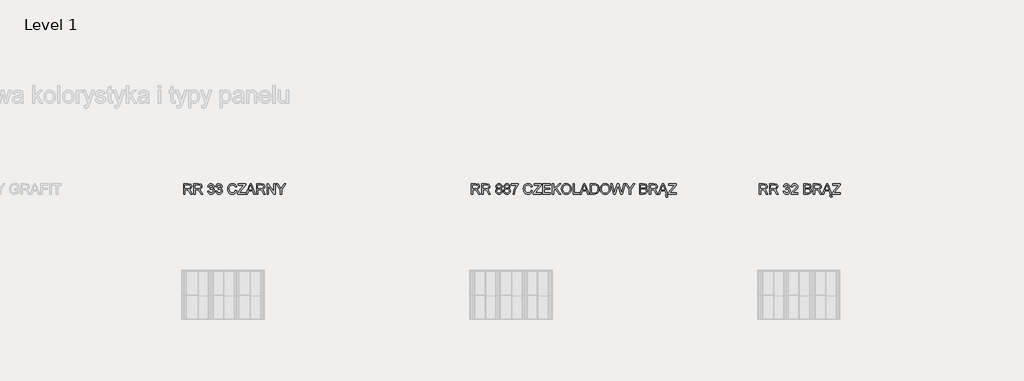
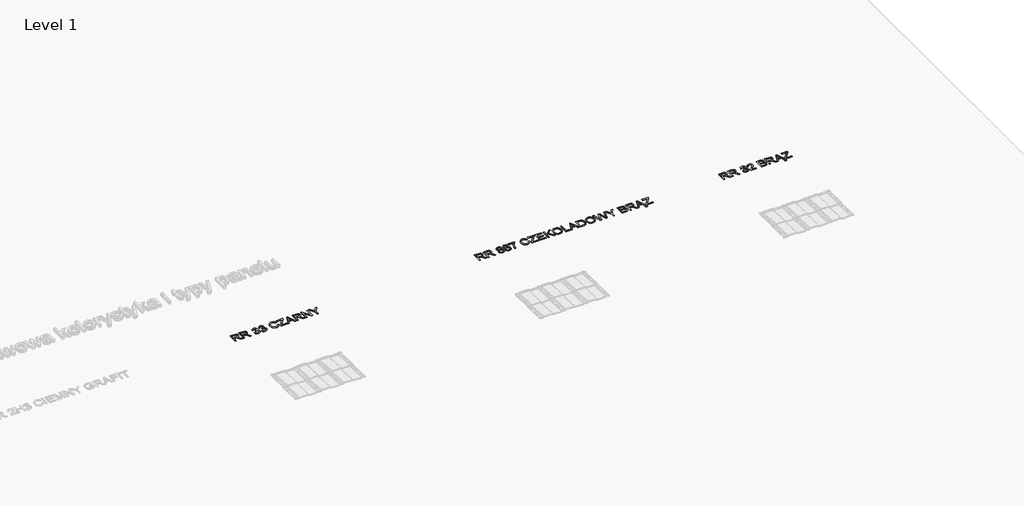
# One storey, part 9 of 10: 3 proxies.
"""IFC4 building model written with IfcOpenShell, lengths in millimetres."""

from ifc_helpers import new_model, si_unit, frame, origin, place, context, project, spatial, polyline, outline, extrude, element, save

model = new_model("IFC4")

# Units and contexts
model_context = context("Model", 3, world=origin())
ifc_project = project(units=[si_unit("LENGTHUNIT", "METRE", prefix="MILLI")], contexts=[model_context])

# Site, building, storey
site = spatial("IfcSite", under=ifc_project)
building = spatial("IfcBuilding", under=site)
storey = spatial("IfcBuildingStorey", under=building, Name="Level 1", Elevation=0.0)

# Proxies
placement = place(None, origin())
element("IfcBuildingElementProxy", 1, Name="150 Blue", ObjectType="150 Blue", at=placement, inside=storey, context=model_context, shape_type="SweptSolid", body=[
    extrude(outline(polyline([(-4536.4118342, 1464.3485888), (-4536.4118342, 1615.033054), (-4471.4806621, 1615.033054), (-4441.3327325, 1610.967958), (-4432.0529092, 1605.3393635), (-4424.8516192, 1596.583772), (-4420.2301016, 1585.7266546), (-4418.6895957, 1573.7934824), (-4421.2417771, 1558.9494439), (-4428.8983211, 1546.6437911), (-4441.8891541, 1537.6214852), (-4460.4442022, 1532.6274871), (-4449.7388361, 1524.5708714), (-4434.4717333, 1505.1834903), (-4409.3453931, 1464.3485888), (-4431.2343718, 1464.3485888), (-4450.8424821, 1495.5817702), (-4465.0059389, 1516.2567383), (-4474.9571469, 1526.0240053), (-4483.9150735, 1529.6108548), (-4494.8411687, 1530.2730423), (-4517.576276, 1530.2730423), (-4517.576276, 1464.3485888), (-4536.4118342, 1464.3485888)]), holes=[polyline([(-4517.576276, 1549.1086005), (-4475.4169994, 1549.1086005), (-4453.9142968, 1551.775745), (-4441.7006145, 1560.3106073), (-4437.5251539, 1573.0945066), (-4439.5163152, 1582.2823594), (-4445.4897991, 1589.6859846), (-4455.7675023, 1594.5696181), (-4470.6713217, 1596.1974959), (-4517.576276, 1596.1974959), (-4517.576276, 1549.1086005)])]), frame((0.0, 0.0, 600.0), z_axis=(0.0, 0.0, 1.0), x_axis=(1.0, 0.0, 0.0)), (0.0, 0.0, 1.0), 10.0),
    extrude(outline(polyline([(-4385.727369, 1464.3485888), (-4385.727369, 1615.033054), (-4320.7961968, 1615.033054), (-4290.6482673, 1610.967958), (-4281.368444, 1605.3393635), (-4274.1671539, 1596.583772), (-4269.5456364, 1585.7266546), (-4268.0051305, 1573.7934824), (-4270.5573119, 1558.9494439), (-4278.2138559, 1546.6437911), (-4291.2046888, 1537.6214852), (-4309.759737, 1532.6274871), (-4299.0543709, 1524.5708714), (-4283.7872681, 1505.1834903), (-4258.6609278, 1464.3485888), (-4280.5499066, 1464.3485888), (-4300.1580169, 1495.5817702), (-4314.3214737, 1516.2567383), (-4324.2726817, 1526.0240053), (-4333.2306083, 1529.6108548), (-4344.1567035, 1530.2730423), (-4366.8918108, 1530.2730423), (-4366.8918108, 1464.3485888), (-4385.727369, 1464.3485888)]), holes=[polyline([(-4366.8918108, 1549.1086005), (-4324.7325342, 1549.1086005), (-4303.2298316, 1551.775745), (-4291.0161493, 1560.3106073), (-4286.8406887, 1573.0945066), (-4288.83185, 1582.2823594), (-4294.8053339, 1589.6859846), (-4305.0830371, 1594.5696181), (-4319.9868564, 1596.1974959), (-4366.8918108, 1596.1974959), (-4366.8918108, 1549.1086005)])]), frame((0.0, 0.0, 600.0), z_axis=(0.0, 0.0, 1.0), x_axis=(1.0, 0.0, 0.0)), (0.0, 0.0, 1.0), 10.0),
    extrude(outline(polyline([(-4183.2451188, 1504.3741499), (-4164.4095607, 1506.7285947), (-4160.1927133, 1494.8919915), (-4154.0168943, 1486.8997551), (-4145.5786011, 1482.3472154), (-4134.5743309, 1480.8297022), (-4121.6616728, 1482.9174325), (-4111.6920708, 1489.1806235), (-4105.3185152, 1498.5248262), (-4103.1939967, 1509.8555916), (-4105.3001211, 1520.6115414), (-4111.6184944, 1529.3349433), (-4121.1834262, 1535.1152891), (-4133.0292265, 1537.0420711), (-4146.2361901, 1534.9819319), (-4144.1392627, 1553.81749), (-4141.1226304, 1553.5967608), (-4119.7486865, 1559.0046262), (-4112.6301699, 1565.8656254), (-4110.257331, 1575.6328924), (-4111.9771793, 1583.767683), (-4117.1367243, 1590.3665663), (-4125.009399, 1594.7397635), (-4134.8686365, 1596.1974959), (-4144.746268, 1594.7259679), (-4152.8212778, 1590.311384), (-4158.7165868, 1582.9537441), (-4162.0551159, 1572.6530482), (-4180.8906741, 1575.007493), (-4175.344853, 1591.9208677), (-4165.4764185, 1604.5484172), (-4151.9751492, 1612.4118948), (-4135.5308241, 1615.033054), (-4112.8141109, 1609.864312), (-4096.9216087, 1595.7376434), (-4091.4217728, 1576.7365383), (-4096.6456972, 1559.3725082), (-4112.096741, 1546.9013085), (-4100.306123, 1542.1372367), (-4091.5689256, 1534.0254387), (-4086.1610603, 1523.0073729), (-4084.3584385, 1509.5244978), (-4087.9636821, 1491.1671863), (-4098.7794127, 1475.8265071), (-4115.1041763, 1465.4522348), (-4135.2365185, 1461.994144), (-4153.4466772, 1464.9463971), (-4168.2723216, 1473.8031561), (-4178.5822145, 1487.3504106), (-4183.2451188, 1504.3741499)])), frame((0.0, 0.0, 600.0), z_axis=(0.0, 0.0, 1.0), x_axis=(1.0, 0.0, 0.0)), (0.0, 0.0, 1.0), 10.0),
    extrude(outline(polyline([(-4067.8773251, 1504.3741499), (-4049.041767, 1506.7285947), (-4044.8249196, 1494.8919915), (-4038.6491006, 1486.8997551), (-4030.2108074, 1482.3472154), (-4019.2065372, 1480.8297022), (-4006.2938792, 1482.9174325), (-3996.3242771, 1489.1806235), (-3989.9507215, 1498.5248262), (-3987.826203, 1509.8555916), (-3989.9323274, 1520.6115414), (-3996.2507007, 1529.3349433), (-4005.8156326, 1535.1152891), (-4017.6614328, 1537.0420711), (-4030.8683964, 1534.9819319), (-4028.7714691, 1553.81749), (-4025.7548367, 1553.5967608), (-4004.3808928, 1559.0046262), (-3997.2623762, 1565.8656254), (-3994.8895373, 1575.6328924), (-3996.6093856, 1583.767683), (-4001.7689306, 1590.3665663), (-4009.6416053, 1594.7397635), (-4019.5008428, 1596.1974959), (-4029.3784744, 1594.7259679), (-4037.4534841, 1590.311384), (-4043.3487931, 1582.9537441), (-4046.6873222, 1572.6530482), (-4065.5228804, 1575.007493), (-4059.9770593, 1591.9208677), (-4050.1086248, 1604.5484172), (-4036.6073556, 1612.4118948), (-4020.1630304, 1615.033054), (-3997.4463172, 1609.864312), (-3981.553815, 1595.7376434), (-3976.0539791, 1576.7365383), (-3981.2779035, 1559.3725082), (-3996.7289473, 1546.9013085), (-3984.9383293, 1542.1372367), (-3976.2011319, 1534.0254387), (-3970.7932666, 1523.0073729), (-3968.9906448, 1509.5244978), (-3972.5958884, 1491.1671863), (-3983.4116191, 1475.8265071), (-3999.7363826, 1465.4522348), (-4019.8687248, 1461.994144), (-4038.0788835, 1464.9463971), (-4052.9045279, 1473.8031561), (-4063.2144209, 1487.3504106), (-4067.8773251, 1504.3741499)])), frame((0.0, 0.0, 600.0), z_axis=(0.0, 0.0, 1.0), x_axis=(1.0, 0.0, 0.0)), (0.0, 0.0, 1.0), 10.0),
    extrude(outline(polyline([(-3780.6350633, 1517.9122073), (-3761.7995052, 1513.056165), (-3770.4907173, 1491.1074054), (-3784.1299423, 1475.072349), (-3802.0457954, 1465.2636953), (-3823.5668921, 1461.994144), (-3845.4144841, 1464.4681505), (-3862.7647187, 1471.8901697), (-3876.0636529, 1484.0026844), (-3885.7573434, 1500.5481771), (-3891.675645, 1519.9999376), (-3893.6484122, 1540.8312556), (-3891.4181276, 1562.8030078), (-3884.7272738, 1581.7765217), (-3873.9253388, 1597.1493905), (-3859.3618103, 1608.3192076), (-3842.0897506, 1615.120426), (-3823.162222, 1617.3874988), (-3802.5102464, 1614.4536399), (-3785.4359233, 1605.6520632), (-3772.4726815, 1591.5253945), (-3764.1539499, 1572.61626), (-3782.9895081, 1568.1280997), (-3789.5194135, 1581.8638936), (-3798.4405519, 1591.2862712), (-3809.8632878, 1596.7355233), (-3823.8979859, 1598.5519407), (-3840.0755967, 1596.5377867), (-3853.3653338, 1590.495325), (-3863.449899, 1581.0591518), (-3870.011994, 1568.8638636), (-3874.8128541, 1540.8680438), (-3873.3919099, 1523.4672254), (-3869.1290773, 1508.4208518), (-3861.8634078, 1496.3037386), (-3851.4339533, 1487.6907014), (-3838.930564, 1482.544952), (-3825.4430903, 1480.8297022), (-3809.7207336, 1483.1657529), (-3796.619536, 1490.1739049), (-3786.7281089, 1501.7805818), (-3780.6350633, 1517.9122073)])), frame((0.0, 0.0, 600.0), z_axis=(0.0, 0.0, 1.0), x_axis=(1.0, 0.0, 0.0)), (0.0, 0.0, 1.0), 10.0),
    extrude(outline(polyline([(-3747.6728365, 1464.3485888), (-3747.6728365, 1483.8831228), (-3670.6383468, 1578.2816427), (-3655.9966433, 1596.1974959), (-3738.2550575, 1596.1974959), (-3738.2550575, 1615.033054), (-3632.3050429, 1615.033054), (-3632.3050429, 1596.1974959), (-3716.6235962, 1492.8962316), (-3724.5698472, 1483.184147), (-3629.9505981, 1483.184147), (-3629.9505981, 1464.3485888), (-3747.6728365, 1464.3485888)])), frame((0.0, 0.0, 600.0), z_axis=(0.0, 0.0, 1.0), x_axis=(1.0, 0.0, 0.0)), (0.0, 0.0, 1.0), 10.0),
    extrude(outline(polyline([(-3626.2717781, 1464.3485888), (-3566.1230719, 1615.033054), (-3550.0834169, 1615.033054), (-3489.9714989, 1464.3485888), (-3509.8739149, 1464.3485888), (-3527.0907922, 1511.4374842), (-3589.189273, 1511.4374842), (-3606.4061504, 1464.3485888), (-3626.2717781, 1464.3485888)]), holes=[polyline([(-3582.2730915, 1530.2730423), (-3533.9701855, 1530.2730423), (-3547.5818194, 1567.3187593), (-3558.1400326, 1596.1974959), (-3567.5210235, 1570.5561208), (-3582.2730915, 1530.2730423)])]), frame((0.0, 0.0, 600.0), z_axis=(0.0, 0.0, 1.0), x_axis=(1.0, 0.0, 0.0)), (0.0, 0.0, 1.0), 10.0),
    extrude(outline(polyline([(-3469.8483538, 1464.3485888), (-3469.8483538, 1615.033054), (-3404.9171816, 1615.033054), (-3374.7692521, 1610.967958), (-3365.4894288, 1605.3393635), (-3358.2881387, 1596.583772), (-3353.6666212, 1585.7266546), (-3352.1261153, 1573.7934824), (-3354.6782967, 1558.9494439), (-3362.3348407, 1546.6437911), (-3375.3256737, 1537.6214852), (-3393.8807218, 1532.6274871), (-3383.1753557, 1524.5708714), (-3367.9082529, 1505.1834903), (-3342.7819127, 1464.3485888), (-3364.6708914, 1464.3485888), (-3384.2790017, 1495.5817702), (-3398.4424585, 1516.2567383), (-3408.3936665, 1526.0240053), (-3417.3515931, 1529.6108548), (-3428.2776883, 1530.2730423), (-3451.0127956, 1530.2730423), (-3451.0127956, 1464.3485888), (-3469.8483538, 1464.3485888)]), holes=[polyline([(-3451.0127956, 1549.1086005), (-3408.853519, 1549.1086005), (-3387.3508164, 1551.775745), (-3375.1371341, 1560.3106073), (-3370.9616735, 1573.0945066), (-3372.9528348, 1582.2823594), (-3378.9263187, 1589.6859846), (-3389.2040219, 1594.5696181), (-3404.1078412, 1596.1974959), (-3451.0127956, 1596.1974959), (-3451.0127956, 1549.1086005)])]), frame((0.0, 0.0, 600.0), z_axis=(0.0, 0.0, 1.0), x_axis=(1.0, 0.0, 0.0)), (0.0, 0.0, 1.0), 10.0),
    extrude(outline(polyline([(-3319.1638886, 1464.3485888), (-3319.1638886, 1615.033054), (-3299.0039552, 1615.033054), (-3220.2772083, 1495.6553466), (-3220.2772083, 1615.033054), (-3201.4416501, 1615.033054), (-3201.4416501, 1464.3485888), (-3221.6015834, 1464.3485888), (-3300.3283304, 1583.7630844), (-3300.3283304, 1464.3485888), (-3319.1638886, 1464.3485888)])), frame((0.0, 0.0, 600.0), z_axis=(0.0, 0.0, 1.0), x_axis=(1.0, 0.0, 0.0)), (0.0, 0.0, 1.0), 10.0),
    extrude(outline(polyline([(-3126.0994175, 1464.3485888), (-3126.0994175, 1528.176115), (-3184.9605367, 1615.033054), (-3162.7772524, 1615.033054), (-3131.36013, 1568.6431344), (-3115.2836868, 1544.951534), (-3099.1336672, 1570.3353916), (-3070.6228126, 1615.033054), (-3048.4027401, 1615.033054), (-3107.2638593, 1528.176115), (-3107.2638593, 1464.3485888), (-3126.0994175, 1464.3485888)])), frame((0.0, 0.0, 600.0), z_axis=(0.0, 0.0, 1.0), x_axis=(1.0, 0.0, 0.0)), (0.0, 0.0, 1.0), 10.0),
])
element("IfcBuildingElementProxy", 2, Name="150 Blue", ObjectType="150 Blue", at=placement, inside=storey, context=model_context, shape_type="SweptSolid", body=[
    extrude(outline(polyline([(-336.4118342, 1464.3485888), (-336.4118342, 1615.033054), (-271.4806621, 1615.033054), (-241.3327325, 1610.967958), (-232.0529092, 1605.3393635), (-224.8516192, 1596.583772), (-220.2301016, 1585.7266546), (-218.6895957, 1573.7934824), (-221.2417771, 1558.9494439), (-228.8983211, 1546.6437911), (-241.8891541, 1537.6214852), (-260.4442022, 1532.6274871), (-249.7388361, 1524.5708714), (-234.4717333, 1505.1834903), (-209.3453931, 1464.3485888), (-231.2343718, 1464.3485888), (-250.8424821, 1495.5817702), (-265.0059389, 1516.2567383), (-274.9571469, 1526.0240053), (-283.9150735, 1529.6108548), (-294.8411687, 1530.2730423), (-317.576276, 1530.2730423), (-317.576276, 1464.3485888), (-336.4118342, 1464.3485888)]), holes=[polyline([(-317.576276, 1549.1086005), (-275.4169994, 1549.1086005), (-253.9142968, 1551.775745), (-241.7006145, 1560.3106073), (-237.5251539, 1573.0945066), (-239.5163152, 1582.2823594), (-245.4897991, 1589.6859846), (-255.7675023, 1594.5696181), (-270.6713217, 1596.1974959), (-317.576276, 1596.1974959), (-317.576276, 1549.1086005)])]), frame((0.0, 0.0, 600.0), z_axis=(0.0, 0.0, 1.0), x_axis=(1.0, 0.0, 0.0)), (0.0, 0.0, 1.0), 10.0),
    extrude(outline(polyline([(-185.727369, 1464.3485888), (-185.727369, 1615.033054), (-120.7961968, 1615.033054), (-90.6482673, 1610.967958), (-81.368444, 1605.3393635), (-74.1671539, 1596.583772), (-69.5456364, 1585.7266546), (-68.0051305, 1573.7934824), (-70.5573119, 1558.9494439), (-78.2138559, 1546.6437911), (-91.2046888, 1537.6214852), (-109.759737, 1532.6274871), (-99.0543709, 1524.5708714), (-83.7872681, 1505.1834903), (-58.6609278, 1464.3485888), (-80.5499066, 1464.3485888), (-100.1580169, 1495.5817702), (-114.3214737, 1516.2567383), (-124.2726817, 1526.0240053), (-133.2306083, 1529.6108548), (-144.1567035, 1530.2730423), (-166.8918108, 1530.2730423), (-166.8918108, 1464.3485888), (-185.727369, 1464.3485888)]), holes=[polyline([(-166.8918108, 1549.1086005), (-124.7325342, 1549.1086005), (-103.2298316, 1551.775745), (-91.0161493, 1560.3106073), (-86.8406887, 1573.0945066), (-88.83185, 1582.2823594), (-94.8053339, 1589.6859846), (-105.0830371, 1594.5696181), (-119.9868564, 1596.1974959), (-166.8918108, 1596.1974959), (-166.8918108, 1549.1086005)])]), frame((0.0, 0.0, 600.0), z_axis=(0.0, 0.0, 1.0), x_axis=(1.0, 0.0, 0.0)), (0.0, 0.0, 1.0), 10.0),
    extrude(outline(polyline([(44.198878, 1547.3427669), (27.0371829, 1559.0414144), (21.4637707, 1577.2515731), (24.4987972, 1591.97605), (33.6038765, 1604.143747), (47.7581363, 1612.3107273), (65.9407039, 1615.033054), (84.2336361, 1612.2463479), (98.5718369, 1603.8862296), (107.8424632, 1591.5253945), (110.9326719, 1576.7365383), (105.4328361, 1558.9862321), (88.7493876, 1547.3427669), (100.342269, 1541.369283), (108.7805623, 1532.5723048), (113.9263117, 1521.3748966), (115.6415615, 1508.2001226), (112.238653, 1490.192299), (102.0299276, 1475.3114723), (86.2661842, 1465.3234761), (66.1982213, 1461.994144), (46.1302585, 1465.3372717), (30.366515, 1475.3666546), (20.1577896, 1490.3900355), (16.7548812, 1508.7151574), (18.5391088, 1522.4003677), (23.8917919, 1533.6575567), (32.5370188, 1542.1004485), (44.198878, 1547.3427669)]), holes=[polyline([(40.2993289, 1576.6997501), (41.9685934, 1568.4775875), (46.9763871, 1561.9108939), (55.175557, 1557.6066746), (66.4189505, 1556.1719348), (77.4002281, 1557.5974775), (85.4752379, 1561.8741057), (90.4416448, 1568.2200702), (92.0971138, 1575.8536216), (90.3864625, 1583.77688), (85.2545087, 1590.3297781), (77.0691343, 1594.7305664), (66.1982213, 1596.1974959), (55.2583305, 1594.7627561), (47.0867517, 1590.4585368), (41.9961846, 1584.1493605), (40.2993289, 1576.6997501)]), polyline([(35.5904393, 1509.377345), (38.7358304, 1495.1954941), (49.8642607, 1484.5820985), (66.3453741, 1480.8297022), (79.1660616, 1482.8024694), (88.7861758, 1488.720771), (94.8010464, 1497.6832961), (96.8060033, 1508.7887338), (94.7366671, 1520.0827111), (88.5286584, 1529.2429728), (78.6878151, 1535.3130257), (65.7199747, 1537.3363767), (53.0786297, 1535.3406168), (43.5550845, 1529.3533374), (37.5816006, 1520.3678196), (35.5904393, 1509.377345)])]), frame((0.0, 0.0, 600.0), z_axis=(0.0, 0.0, 1.0), x_axis=(1.0, 0.0, 0.0)), (0.0, 0.0, 1.0), 10.0),
    extrude(outline(polyline([(159.5666717, 1547.3427669), (142.4049766, 1559.0414144), (136.8315644, 1577.2515731), (139.8665909, 1591.97605), (148.9716702, 1604.143747), (163.12593, 1612.3107273), (181.3084976, 1615.033054), (199.6014298, 1612.2463479), (213.9396306, 1603.8862296), (223.2102569, 1591.5253945), (226.3004656, 1576.7365383), (220.8006298, 1558.9862321), (204.1171813, 1547.3427669), (215.7100627, 1541.369283), (224.1483559, 1532.5723048), (229.2941054, 1521.3748966), (231.0093552, 1508.2001226), (227.6064467, 1490.192299), (217.3977213, 1475.3114723), (201.6339778, 1465.3234761), (181.566015, 1461.994144), (161.4980522, 1465.3372717), (145.7343087, 1475.3666546), (135.5255833, 1490.3900355), (132.1226749, 1508.7151574), (133.9069025, 1522.4003677), (139.2595856, 1533.6575567), (147.9048124, 1542.1004485), (159.5666717, 1547.3427669)]), holes=[polyline([(155.6671225, 1576.6997501), (157.3363871, 1568.4775875), (162.3441808, 1561.9108939), (170.5433507, 1557.6066746), (181.7867442, 1556.1719348), (192.7680218, 1557.5974775), (200.8430316, 1561.8741057), (205.8094385, 1568.2200702), (207.4649075, 1575.8536216), (205.7542562, 1583.77688), (200.6223024, 1590.3297781), (192.436928, 1594.7305664), (181.566015, 1596.1974959), (170.6261242, 1594.7627561), (162.4545454, 1590.4585368), (157.3639782, 1584.1493605), (155.6671225, 1576.6997501)]), polyline([(150.958233, 1509.377345), (154.1036241, 1495.1954941), (165.2320544, 1484.5820985), (181.7131678, 1480.8297022), (194.5338553, 1482.8024694), (204.1539695, 1488.720771), (210.1688401, 1497.6832961), (212.173797, 1508.7887338), (210.1044608, 1520.0827111), (203.8964521, 1529.2429728), (194.0556087, 1535.3130257), (181.0877684, 1537.3363767), (168.4464234, 1535.3406168), (158.9228782, 1529.3533374), (152.9493943, 1520.3678196), (150.958233, 1509.377345)])]), frame((0.0, 0.0, 600.0), z_axis=(0.0, 0.0, 1.0), x_axis=(1.0, 0.0, 0.0)), (0.0, 0.0, 1.0), 10.0),
    extrude(outline(polyline([(247.4904685, 1593.8430511), (247.4904685, 1612.6786093), (346.3771488, 1612.6786093), (346.3771488, 1597.4482947), (318.3261467, 1556.9260929), (306.0158954, 1531.4640603), (296.8602323, 1505.2938549), (289.8704744, 1464.3485888), (271.0349162, 1464.3485888), (278.5213148, 1506.8389593), (287.2355196, 1531.2985134), (299.0675243, 1554.8659537), (327.5415907, 1593.8430511), (247.4904685, 1593.8430511)])), frame((0.0, 0.0, 600.0), z_axis=(0.0, 0.0, 1.0), x_axis=(1.0, 0.0, 0.0)), (0.0, 0.0, 1.0), 10.0),
    extrude(outline(polyline([(534.7327304, 1517.9122073), (553.5682885, 1513.056165), (544.8770764, 1491.1074054), (531.2378514, 1475.072349), (513.3219983, 1465.2636953), (491.8009015, 1461.994144), (469.9533096, 1464.4681505), (452.603075, 1471.8901697), (439.3041408, 1484.0026844), (429.6104503, 1500.5481771), (423.6921487, 1519.9999376), (421.7193815, 1540.8312556), (423.9496661, 1562.8030078), (430.6405198, 1581.7765217), (441.4424549, 1597.1493905), (456.0059834, 1608.3192076), (473.2780431, 1615.120426), (492.2055717, 1617.3874988), (512.8575472, 1614.4536399), (529.9318703, 1605.6520632), (542.8951121, 1591.5253945), (551.2138438, 1572.61626), (532.3782856, 1568.1280997), (525.8483802, 1581.8638936), (516.9272418, 1591.2862712), (505.5045059, 1596.7355233), (491.4698077, 1598.5519407), (475.292197, 1596.5377867), (462.0024599, 1590.495325), (451.9178947, 1581.0591518), (445.3557996, 1568.8638636), (440.5549396, 1540.8680438), (441.9758838, 1523.4672254), (446.2387164, 1508.4208518), (453.5043858, 1496.3037386), (463.9338404, 1487.6907014), (476.4372297, 1482.544952), (489.9247034, 1480.8297022), (505.6470601, 1483.1657529), (518.7482577, 1490.1739049), (528.6396848, 1501.7805818), (534.7327304, 1517.9122073)])), frame((0.0, 0.0, 600.0), z_axis=(0.0, 0.0, 1.0), x_axis=(1.0, 0.0, 0.0)), (0.0, 0.0, 1.0), 10.0),
    extrude(outline(polyline([(567.6949571, 1464.3485888), (567.6949571, 1483.8831228), (644.7294469, 1578.2816427), (659.3711503, 1596.1974959), (577.1127362, 1596.1974959), (577.1127362, 1615.033054), (683.0627508, 1615.033054), (683.0627508, 1596.1974959), (598.7441975, 1492.8962316), (590.7979464, 1483.184147), (685.4171956, 1483.184147), (685.4171956, 1464.3485888), (567.6949571, 1464.3485888)])), frame((0.0, 0.0, 600.0), z_axis=(0.0, 0.0, 1.0), x_axis=(1.0, 0.0, 0.0)), (0.0, 0.0, 1.0), 10.0),
    extrude(outline(polyline([(706.6071985, 1464.3485888), (706.6071985, 1615.033054), (814.9116579, 1615.033054), (814.9116579, 1596.1974959), (725.4427567, 1596.1974959), (725.4427567, 1551.4630453), (810.2027684, 1551.4630453), (810.2027684, 1532.6274871), (725.4427567, 1532.6274871), (725.4427567, 1483.184147), (817.2661027, 1483.184147), (817.2661027, 1464.3485888), (706.6071985, 1464.3485888)])), frame((0.0, 0.0, 600.0), z_axis=(0.0, 0.0, 1.0), x_axis=(1.0, 0.0, 0.0)), (0.0, 0.0, 1.0), 10.0),
    extrude(outline(polyline([(845.5194399, 1464.3485888), (845.5194399, 1615.033054), (864.3549981, 1615.033054), (864.3549981, 1541.272714), (941.610217, 1615.033054), (967.9505679, 1615.033054), (903.0561839, 1553.081726), (970.3050127, 1464.3485888), (947.2755998, 1464.3485888), (889.7020675, 1540.353009), (864.3549981, 1516.1463737), (864.3549981, 1464.3485888), (845.5194399, 1464.3485888)])), frame((0.0, 0.0, 600.0), z_axis=(0.0, 0.0, 1.0), x_axis=(1.0, 0.0, 0.0)), (0.0, 0.0, 1.0), 10.0),
    extrude(outline(polyline([(977.368347, 1537.7042587), (982.3899362, 1571.0251704), (988.6669227, 1584.643702), (997.4547039, 1596.2342841), (1020.4565257, 1612.0991951), (1049.289277, 1617.3874988), (1069.0537372, 1614.9042953), (1086.7764523, 1607.4546849), (1101.4917321, 1595.5628994), (1112.2338864, 1579.7531707), (1118.80058, 1560.7888538), (1120.9894779, 1539.433304), (1118.6856169, 1517.7926457), (1111.7740339, 1498.5616144), (1100.6364065, 1482.7242945), (1085.6544123, 1471.2647703), (1068.0834485, 1464.3118006), (1049.1789124, 1461.994144), (1029.1109496, 1464.5555224), (1011.2870669, 1472.2396576), (996.6085753, 1484.3521723), (985.9767857, 1500.1986892), (979.5204566, 1518.4318406), (977.368347, 1537.7042587)]), holes=[polyline([(996.2039051, 1537.5203177), (999.9700971, 1513.9482788), (1011.2686728, 1495.9864404), (1028.2510254, 1484.6188867), (1049.0685478, 1480.8297022), (1070.1895729, 1484.6556749), (1087.1995166, 1496.1335932), (1098.415319, 1514.6472546), (1102.1539197, 1539.5804568), (1100.5536331, 1556.2547083), (1095.752773, 1570.6664854), (1087.8754998, 1582.4525048), (1077.0459736, 1591.249483), (1063.9815642, 1596.7263263), (1049.3996416, 1598.5519407), (1029.1385407, 1595.0340691), (1011.9124663, 1584.4804543), (1000.1310454, 1565.704677), (996.2039051, 1537.5203177)])]), frame((0.0, 0.0, 600.0), z_axis=(0.0, 0.0, 1.0), x_axis=(1.0, 0.0, 0.0)), (0.0, 0.0, 1.0), 10.0),
    extrude(outline(polyline([(1146.8883704, 1464.3485888), (1146.8883704, 1615.033054), (1165.7239285, 1615.033054), (1165.7239285, 1483.184147), (1241.0661611, 1483.184147), (1241.0661611, 1464.3485888), (1146.8883704, 1464.3485888)])), frame((0.0, 0.0, 600.0), z_axis=(0.0, 0.0, 1.0), x_axis=(1.0, 0.0, 0.0)), (0.0, 0.0, 1.0), 10.0),
    extrude(outline(polyline([(1244.7449811, 1464.3485888), (1304.8936873, 1615.033054), (1320.9333423, 1615.033054), (1381.0452603, 1464.3485888), (1361.1428443, 1464.3485888), (1343.925967, 1511.4374842), (1281.8274862, 1511.4374842), (1264.6106088, 1464.3485888), (1244.7449811, 1464.3485888)]), holes=[polyline([(1288.7436677, 1530.2730423), (1337.0465737, 1530.2730423), (1323.4349398, 1567.3187593), (1312.8767266, 1596.1974959), (1303.4957357, 1570.5561208), (1288.7436677, 1530.2730423)])]), frame((0.0, 0.0, 600.0), z_axis=(0.0, 0.0, 1.0), x_axis=(1.0, 0.0, 0.0)), (0.0, 0.0, 1.0), 10.0),
    extrude(outline(polyline([(1401.1684054, 1464.3485888), (1401.1684054, 1615.033054), (1453.1501313, 1615.033054), (1480.0423052, 1612.8625503), (1502.1888013, 1602.0836078), (1512.6090588, 1590.6056896), (1520.0310781, 1576.3318681), (1524.4732531, 1559.5380551), (1525.9539782, 1540.5001618), (1521.9440644, 1510.0947149), (1511.6433686, 1488.1505539), (1497.8845819, 1474.4837378), (1479.8767583, 1466.9237628), (1455.6517289, 1464.3485888), (1401.1684054, 1464.3485888)]), holes=[polyline([(1420.0039636, 1483.184147), (1453.3340723, 1483.184147), (1477.5774958, 1485.9064737), (1491.5570116, 1493.5952074), (1503.0165358, 1512.3020069), (1507.11842, 1540.7944674), (1505.1088646, 1561.3222827), (1499.0801984, 1576.4790209), (1490.1728556, 1586.8900814), (1479.5272704, 1593.1808635), (1452.8190375, 1596.1974959), (1420.0039636, 1596.1974959), (1420.0039636, 1483.184147)])]), frame((0.0, 0.0, 600.0), z_axis=(0.0, 0.0, 1.0), x_axis=(1.0, 0.0, 0.0)), (0.0, 0.0, 1.0), 10.0),
    extrude(outline(polyline([(1544.7895363, 1537.7042587), (1549.8111256, 1571.0251704), (1556.0881121, 1584.643702), (1564.8758933, 1596.2342841), (1587.877715, 1612.0991951), (1616.7104664, 1617.3874988), (1636.4749266, 1614.9042953), (1654.1976417, 1607.4546849), (1668.9129215, 1595.5628994), (1679.6550758, 1579.7531707), (1686.2217694, 1560.7888538), (1688.4106673, 1539.433304), (1686.1068063, 1517.7926457), (1679.1952233, 1498.5616144), (1668.0575959, 1482.7242945), (1653.0756016, 1471.2647703), (1635.5046378, 1464.3118006), (1616.6001018, 1461.994144), (1596.532139, 1464.5555224), (1578.7082563, 1472.2396576), (1564.0297647, 1484.3521723), (1553.397975, 1500.1986892), (1546.941646, 1518.4318406), (1544.7895363, 1537.7042587)]), holes=[polyline([(1563.6250945, 1537.5203177), (1567.3912864, 1513.9482788), (1578.6898622, 1495.9864404), (1595.6722148, 1484.6188867), (1616.4897372, 1480.8297022), (1637.6107622, 1484.6556749), (1654.620706, 1496.1335932), (1665.8365083, 1514.6472546), (1669.5751091, 1539.5804568), (1667.9748224, 1556.2547083), (1663.1739624, 1570.6664854), (1655.2966892, 1582.4525048), (1644.4671629, 1591.249483), (1631.4027536, 1596.7263263), (1616.820831, 1598.5519407), (1596.5597301, 1595.0340691), (1579.3336557, 1584.4804543), (1567.5522348, 1565.704677), (1563.6250945, 1537.5203177)])]), frame((0.0, 0.0, 600.0), z_axis=(0.0, 0.0, 1.0), x_axis=(1.0, 0.0, 0.0)), (0.0, 0.0, 1.0), 10.0),
    extrude(outline(polyline([(1741.27531, 1464.3485888), (1700.1828911, 1615.033054), (1719.6070604, 1615.033054), (1743.4458137, 1515.9992209), (1750.8034536, 1485.4282271), (1758.6761283, 1512.4675538), (1788.5481463, 1615.033054), (1816.5439662, 1615.033054), (1838.2490039, 1540.6841028), (1854.3990235, 1485.4282271), (1861.5359342, 1515.1163041), (1885.5586285, 1615.033054), (1905.019586, 1615.033054), (1863.9639553, 1464.3485888), (1843.804022, 1464.3485888), (1807.6412219, 1580.5992993), (1802.6012386, 1596.8228953), (1796.9358558, 1577.2883613), (1764.0104173, 1464.3485888), (1741.27531, 1464.3485888)])), frame((0.0, 0.0, 600.0), z_axis=(0.0, 0.0, 1.0), x_axis=(1.0, 0.0, 0.0)), (0.0, 0.0, 1.0), 10.0),
    extrude(outline(polyline([(1966.23515, 1464.3485888), (1966.23515, 1528.176115), (1907.3740308, 1615.033054), (1929.5573151, 1615.033054), (1960.9744375, 1568.6431344), (1977.0508807, 1544.951534), (1993.2009003, 1570.3353916), (2021.7117549, 1615.033054), (2043.9318274, 1615.033054), (1985.0707082, 1528.176115), (1985.0707082, 1464.3485888), (1966.23515, 1464.3485888)])), frame((0.0, 0.0, 600.0), z_axis=(0.0, 0.0, 1.0), x_axis=(1.0, 0.0, 0.0)), (0.0, 0.0, 1.0), 10.0),
    extrude(outline(polyline([(2119.27406, 1464.3485888), (2119.27406, 1615.033054), (2176.7740158, 1615.033054), (2204.9353826, 1610.600076), (2214.3991469, 1604.97608), (2221.5636488, 1596.9700481), (2227.5785194, 1577.6930315), (2222.5201419, 1560.0898781), (2207.234645, 1546.7541557), (2217.9078214, 1541.1807435), (2225.7942917, 1532.7010635), (2230.6641296, 1521.8761358), (2232.2874089, 1509.2669804), (2227.8544309, 1489.0150766), (2216.8731533, 1474.5941024), (2200.4840104, 1466.9421569), (2176.3325575, 1464.3485888), (2119.27406, 1464.3485888)]), holes=[polyline([(2138.1096182, 1553.81749), (2172.5065847, 1553.81749), (2192.5929416, 1555.4361708), (2204.6778652, 1562.4075346), (2208.7429612, 1574.6763992), (2204.9537767, 1586.9636578), (2194.1012578, 1594.2293272), (2169.8946225, 1596.1974959), (2138.1096182, 1596.1974959), (2138.1096182, 1553.81749)]), polyline([(2138.1096182, 1483.184147), (2176.7372276, 1483.184147), (2190.7167435, 1483.919911), (2202.5441496, 1488.0217952), (2210.3800361, 1496.3911106), (2213.4518508, 1509.0830394), (2209.8466072, 1523.7247428), (2198.1663539, 1532.4619402), (2174.8978177, 1534.9819319), (2138.1096182, 1534.9819319), (2138.1096182, 1483.184147)])]), frame((0.0, 0.0, 600.0), z_axis=(0.0, 0.0, 1.0), x_axis=(1.0, 0.0, 0.0)), (0.0, 0.0, 1.0), 10.0),
    extrude(outline(polyline([(2258.1863014, 1464.3485888), (2258.1863014, 1615.033054), (2323.1174735, 1615.033054), (2353.265403, 1610.967958), (2362.5452264, 1605.3393635), (2369.7465164, 1596.583772), (2374.368034, 1585.7266546), (2375.9085398, 1573.7934824), (2373.3563585, 1558.9494439), (2365.6998145, 1546.6437911), (2352.7089815, 1537.6214852), (2334.1539334, 1532.6274871), (2344.8592994, 1524.5708714), (2360.1264022, 1505.1834903), (2385.2527425, 1464.3485888), (2363.3637638, 1464.3485888), (2343.7556535, 1495.5817702), (2329.5921966, 1516.2567383), (2319.6409887, 1526.0240053), (2310.6830621, 1529.6108548), (2299.7569668, 1530.2730423), (2277.0218595, 1530.2730423), (2277.0218595, 1464.3485888), (2258.1863014, 1464.3485888)]), holes=[polyline([(2277.0218595, 1549.1086005), (2319.1811362, 1549.1086005), (2340.6838388, 1551.775745), (2352.897521, 1560.3106073), (2357.0729817, 1573.0945066), (2355.0818204, 1582.2823594), (2349.1083365, 1589.6859846), (2338.8306332, 1594.5696181), (2323.9268139, 1596.1974959), (2277.0218595, 1596.1974959), (2277.0218595, 1549.1086005)])]), frame((0.0, 0.0, 600.0), z_axis=(0.0, 0.0, 1.0), x_axis=(1.0, 0.0, 0.0)), (0.0, 0.0, 1.0), 10.0),
    extrude(outline(polyline([(2391.3595836, 1464.3485888), (2451.5082898, 1615.033054), (2467.5479448, 1615.033054), (2527.6598628, 1464.3485888), (2524.7535951, 1464.3485888), (2515.6853039, 1455.2435094), (2512.4663364, 1444.2622319), (2514.7655989, 1436.7942274), (2522.2152093, 1433.7408068), (2526.9240989, 1434.4029944), (2531.3018946, 1436.168828), (2531.3018946, 1423.1825936), (2518.094931, 1419.6141382), (2509.43131, 1421.1224544), (2503.2508925, 1425.2795209), (2499.5536784, 1431.3679679), (2498.3396678, 1438.7440019), (2502.0184878, 1452.1165125), (2512.4295482, 1464.3485888), (2507.7574469, 1464.3485888), (2490.5405695, 1511.4374842), (2428.4420887, 1511.4374842), (2411.2252114, 1464.3485888), (2391.3595836, 1464.3485888)]), holes=[polyline([(2435.3582703, 1530.2730423), (2483.6611762, 1530.2730423), (2470.0495424, 1567.3187593), (2459.4913291, 1596.1974959), (2450.1103383, 1570.5561208), (2435.3582703, 1530.2730423)])]), frame((0.0, 0.0, 600.0), z_axis=(0.0, 0.0, 1.0), x_axis=(1.0, 0.0, 0.0)), (0.0, 0.0, 1.0), 10.0),
    extrude(outline(polyline([(2536.0107841, 1464.3485888), (2536.0107841, 1483.8831228), (2613.0452739, 1578.2816427), (2627.6869773, 1596.1974959), (2545.4285632, 1596.1974959), (2545.4285632, 1615.033054), (2651.3785778, 1615.033054), (2651.3785778, 1596.1974959), (2567.0600245, 1492.8962316), (2559.1137734, 1483.184147), (2653.7330226, 1483.184147), (2653.7330226, 1464.3485888), (2536.0107841, 1464.3485888)])), frame((0.0, 0.0, 600.0), z_axis=(0.0, 0.0, 1.0), x_axis=(1.0, 0.0, 0.0)), (0.0, 0.0, 1.0), 10.0),
])
element("IfcBuildingElementProxy", 3, Name="150 Blue", ObjectType="150 Blue", at=placement, inside=storey, context=model_context, shape_type="SweptSolid", body=[
    extrude(outline(polyline([(3863.5881658, 1464.3485888), (3863.5881658, 1615.033054), (3928.5193379, 1615.033054), (3958.6672675, 1610.967958), (3967.9470908, 1605.3393635), (3975.1483808, 1596.583772), (3979.7698984, 1585.7266546), (3981.3104043, 1573.7934824), (3978.7582229, 1558.9494439), (3971.1016789, 1546.6437911), (3958.1108459, 1537.6214852), (3939.5557978, 1532.6274871), (3950.2611639, 1524.5708714), (3965.5282667, 1505.1834903), (3990.6546069, 1464.3485888), (3968.7656282, 1464.3485888), (3949.1575179, 1495.5817702), (3934.9940611, 1516.2567383), (3925.0428531, 1526.0240053), (3916.0849265, 1529.6108548), (3905.1588313, 1530.2730423), (3882.423724, 1530.2730423), (3882.423724, 1464.3485888), (3863.5881658, 1464.3485888)]), holes=[polyline([(3882.423724, 1549.1086005), (3924.5830006, 1549.1086005), (3946.0857032, 1551.775745), (3958.2993855, 1560.3106073), (3962.4748461, 1573.0945066), (3960.4836848, 1582.2823594), (3954.5102009, 1589.6859846), (3944.2324977, 1594.5696181), (3929.3286783, 1596.1974959), (3882.423724, 1596.1974959), (3882.423724, 1549.1086005)])]), frame((0.0, 0.0, 600.0), z_axis=(0.0, 0.0, 1.0), x_axis=(1.0, 0.0, 0.0)), (0.0, 0.0, 1.0), 10.0),
    extrude(outline(polyline([(4014.272631, 1464.3485888), (4014.272631, 1615.033054), (4079.2038032, 1615.033054), (4109.3517327, 1610.967958), (4118.631556, 1605.3393635), (4125.8328461, 1596.583772), (4130.4543636, 1585.7266546), (4131.9948695, 1573.7934824), (4129.4426881, 1558.9494439), (4121.7861441, 1546.6437911), (4108.7953112, 1537.6214852), (4090.240263, 1532.6274871), (4100.9456291, 1524.5708714), (4116.2127319, 1505.1834903), (4141.3390722, 1464.3485888), (4119.4500934, 1464.3485888), (4099.8419831, 1495.5817702), (4085.6785263, 1516.2567383), (4075.7273183, 1526.0240053), (4066.7693917, 1529.6108548), (4055.8432965, 1530.2730423), (4033.1081892, 1530.2730423), (4033.1081892, 1464.3485888), (4014.272631, 1464.3485888)]), holes=[polyline([(4033.1081892, 1549.1086005), (4075.2674658, 1549.1086005), (4096.7701684, 1551.775745), (4108.9838507, 1560.3106073), (4113.1593113, 1573.0945066), (4111.16815, 1582.2823594), (4105.1946661, 1589.6859846), (4094.9169629, 1594.5696181), (4080.0131436, 1596.1974959), (4033.1081892, 1596.1974959), (4033.1081892, 1549.1086005)])]), frame((0.0, 0.0, 600.0), z_axis=(0.0, 0.0, 1.0), x_axis=(1.0, 0.0, 0.0)), (0.0, 0.0, 1.0), 10.0),
    extrude(outline(polyline([(4216.7548812, 1504.3741499), (4235.5904393, 1506.7285947), (4239.8072867, 1494.8919915), (4245.9831057, 1486.8997551), (4254.4213989, 1482.3472154), (4265.4256691, 1480.8297022), (4278.3383272, 1482.9174325), (4288.3079292, 1489.1806235), (4294.6814848, 1498.5248262), (4296.8060033, 1509.8555916), (4294.6998789, 1520.6115414), (4288.3815056, 1529.3349433), (4278.8165738, 1535.1152891), (4266.9707735, 1537.0420711), (4253.7638099, 1534.9819319), (4255.8607373, 1553.81749), (4258.8773696, 1553.5967608), (4280.2513135, 1559.0046262), (4287.3698301, 1565.8656254), (4289.742669, 1575.6328924), (4288.0228207, 1583.767683), (4282.8632757, 1590.3665663), (4274.990601, 1594.7397635), (4265.1313635, 1596.1974959), (4255.253732, 1594.7259679), (4247.1787222, 1590.311384), (4241.2834132, 1582.9537441), (4237.9448841, 1572.6530482), (4219.1093259, 1575.007493), (4224.655147, 1591.9208677), (4234.5235815, 1604.5484172), (4248.0248508, 1612.4118948), (4264.4691759, 1615.033054), (4287.1858891, 1609.864312), (4303.0783913, 1595.7376434), (4308.5782272, 1576.7365383), (4303.3543028, 1559.3725082), (4287.903259, 1546.9013085), (4299.693877, 1542.1372367), (4308.4310744, 1534.0254387), (4313.8389397, 1523.0073729), (4315.6415615, 1509.5244978), (4312.0363179, 1491.1671863), (4301.2205873, 1475.8265071), (4284.8958237, 1465.4522348), (4264.7634815, 1461.994144), (4246.5533228, 1464.9463971), (4231.7276784, 1473.8031561), (4221.4177855, 1487.3504106), (4216.7548812, 1504.3741499)])), frame((0.0, 0.0, 600.0), z_axis=(0.0, 0.0, 1.0), x_axis=(1.0, 0.0, 0.0)), (0.0, 0.0, 1.0), 10.0),
    extrude(outline(polyline([(4428.6549104, 1483.184147), (4428.6549104, 1464.3485888), (4329.7682301, 1464.3485888), (4331.7915811, 1477.3348232), (4343.2511052, 1497.3292097), (4366.8507352, 1519.1630061), (4399.3531095, 1550.5433403), (4405.436958, 1561.3590709), (4407.4649075, 1571.880496), (4405.5473226, 1581.3120707), (4399.7945679, 1589.1525557), (4390.9516044, 1594.4362608), (4379.7633932, 1596.1974959), (4368.014162, 1594.4776476), (4358.88609, 1589.3181026), (4352.9953796, 1581.1235311), (4350.958233, 1570.2986034), (4332.1226749, 1572.6530482), (4336.6890101, 1590.872404), (4346.5620432, 1604.1805352), (4361.2267392, 1612.3199243), (4380.1680634, 1615.033054), (4399.2473434, 1612.0164217), (4413.8844483, 1602.9665246), (4423.1964613, 1589.4468613), (4426.3004656, 1573.0209302), (4422.9527395, 1555.1602593), (4411.8243091, 1536.6925832), (4384.8401648, 1510.8856612), (4363.1719152, 1492.7674729), (4354.6738412, 1483.184147), (4428.6549104, 1483.184147)])), frame((0.0, 0.0, 600.0), z_axis=(0.0, 0.0, 1.0), x_axis=(1.0, 0.0, 0.0)), (0.0, 0.0, 1.0), 10.0),
    extrude(outline(polyline([(4513.4149221, 1464.3485888), (4513.4149221, 1615.033054), (4570.9148779, 1615.033054), (4599.0762447, 1610.600076), (4608.540009, 1604.97608), (4615.7045108, 1596.9700481), (4621.7193815, 1577.6930315), (4616.661004, 1560.0898781), (4601.3755071, 1546.7541557), (4612.0486835, 1541.1807435), (4619.9351538, 1532.7010635), (4624.8049917, 1521.8761358), (4626.428271, 1509.2669804), (4621.995293, 1489.0150766), (4611.0140154, 1474.5941024), (4594.6248725, 1466.9421569), (4570.4734195, 1464.3485888), (4513.4149221, 1464.3485888)]), holes=[polyline([(4532.2504802, 1553.81749), (4566.6474468, 1553.81749), (4586.7338037, 1555.4361708), (4598.8187273, 1562.4075346), (4602.8838233, 1574.6763992), (4599.0946388, 1586.9636578), (4588.2421199, 1594.2293272), (4564.0354846, 1596.1974959), (4532.2504802, 1596.1974959), (4532.2504802, 1553.81749)]), polyline([(4532.2504802, 1483.184147), (4570.8780897, 1483.184147), (4584.8576055, 1483.919911), (4596.6850117, 1488.0217952), (4604.5208982, 1496.3911106), (4607.5927128, 1509.0830394), (4603.9874693, 1523.7247428), (4592.3072159, 1532.4619402), (4569.0386797, 1534.9819319), (4532.2504802, 1534.9819319), (4532.2504802, 1483.184147)])]), frame((0.0, 0.0, 600.0), z_axis=(0.0, 0.0, 1.0), x_axis=(1.0, 0.0, 0.0)), (0.0, 0.0, 1.0), 10.0),
    extrude(outline(polyline([(4652.3271635, 1464.3485888), (4652.3271635, 1615.033054), (4717.2583356, 1615.033054), (4747.4062651, 1610.967958), (4756.6860884, 1605.3393635), (4763.8873785, 1596.583772), (4768.5088961, 1585.7266546), (4770.0494019, 1573.7934824), (4767.4972206, 1558.9494439), (4759.8406765, 1546.6437911), (4746.8498436, 1537.6214852), (4728.2947955, 1532.6274871), (4739.0001615, 1524.5708714), (4754.2672643, 1505.1834903), (4779.3936046, 1464.3485888), (4757.5046259, 1464.3485888), (4737.8965155, 1495.5817702), (4723.7330587, 1516.2567383), (4713.7818508, 1526.0240053), (4704.8239242, 1529.6108548), (4693.8978289, 1530.2730423), (4671.1627216, 1530.2730423), (4671.1627216, 1464.3485888), (4652.3271635, 1464.3485888)]), holes=[polyline([(4671.1627216, 1549.1086005), (4713.3219983, 1549.1086005), (4734.8247009, 1551.775745), (4747.0383831, 1560.3106073), (4751.2138438, 1573.0945066), (4749.2226825, 1582.2823594), (4743.2491986, 1589.6859846), (4732.9714953, 1594.5696181), (4718.067676, 1596.1974959), (4671.1627216, 1596.1974959), (4671.1627216, 1549.1086005)])]), frame((0.0, 0.0, 600.0), z_axis=(0.0, 0.0, 1.0), x_axis=(1.0, 0.0, 0.0)), (0.0, 0.0, 1.0), 10.0),
    extrude(outline(polyline([(4785.5004457, 1464.3485888), (4845.6491519, 1615.033054), (4861.6888069, 1615.033054), (4921.8007249, 1464.3485888), (4918.8944572, 1464.3485888), (4909.826166, 1455.2435094), (4906.6071985, 1444.2622319), (4908.906461, 1436.7942274), (4916.3560714, 1433.7408068), (4921.0649609, 1434.4029944), (4925.4427567, 1436.168828), (4925.4427567, 1423.1825936), (4912.235793, 1419.6141382), (4903.5721721, 1421.1224544), (4897.3917545, 1425.2795209), (4893.6945405, 1431.3679679), (4892.4805299, 1438.7440019), (4896.1593499, 1452.1165125), (4906.5704103, 1464.3485888), (4901.898309, 1464.3485888), (4884.6814316, 1511.4374842), (4822.5829508, 1511.4374842), (4805.3660735, 1464.3485888), (4785.5004457, 1464.3485888)]), holes=[polyline([(4829.4991323, 1530.2730423), (4877.8020383, 1530.2730423), (4864.1904045, 1567.3187593), (4853.6321912, 1596.1974959), (4844.2512003, 1570.5561208), (4829.4991323, 1530.2730423)])]), frame((0.0, 0.0, 600.0), z_axis=(0.0, 0.0, 1.0), x_axis=(1.0, 0.0, 0.0)), (0.0, 0.0, 1.0), 10.0),
    extrude(outline(polyline([(4930.1516462, 1464.3485888), (4930.1516462, 1483.8831228), (5007.186136, 1578.2816427), (5021.8278394, 1596.1974959), (4939.5694253, 1596.1974959), (4939.5694253, 1615.033054), (5045.5194399, 1615.033054), (5045.5194399, 1596.1974959), (4961.2008866, 1492.8962316), (4953.2546355, 1483.184147), (5047.8738847, 1483.184147), (5047.8738847, 1464.3485888), (4930.1516462, 1464.3485888)])), frame((0.0, 0.0, 600.0), z_axis=(0.0, 0.0, 1.0), x_axis=(1.0, 0.0, 0.0)), (0.0, 0.0, 1.0), 10.0),
])

save(model, "model.ifc")
